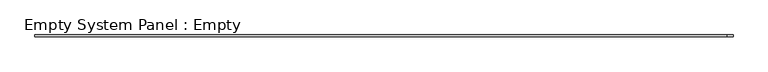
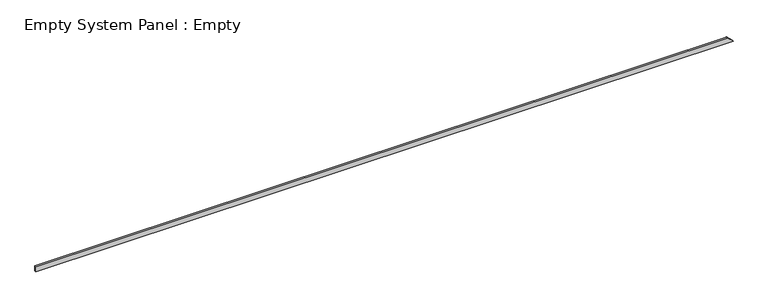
"""IFC4 building model written with IfcOpenShell, lengths in millimetres: plate geometry, Empty System Panel : Empty."""

from ifc_helpers import new_model, si_unit, frame, origin, place, context, project, spatial, polyline, outline, extrude, source, transform, mapped, element, save


def empty_system_panel_empty_44f66cc0(model_context):
    return source(origin(), model_context, "Body", "SweptSolid", [
        extrude(outline(polyline([(0.0, -20086.5187937), (0.0, 20086.5187937), (330.0, 19760.1697972), (310.0, 19760.1697972), (310.0, -20086.5187937), (0.0, -20086.5187937)])), frame((0.0, -50.0, 0.0), z_axis=(0.0, 1.0, 0.0), x_axis=(0.0, 0.0, 1.0)), (0.0, 0.0, 1.0), 100.0),
    ])


if __name__ == "__main__":
    model = new_model("IFC4")
    model_context = context("Model", 3, world=origin())
    ifc_project = project(units=[si_unit("LENGTHUNIT", "METRE", prefix="MILLI")], contexts=[model_context])
    site = spatial("IfcSite", under=ifc_project)
    building = spatial("IfcBuilding", under=site)
    placement = place(None, origin())
    empty_system_panel_empty_shape = empty_system_panel_empty_44f66cc0(model_context)
    element("IfcPlate", 1, ObjectType="Empty System Panel : Empty", at=placement, inside=building, context=model_context, shape_type="MappedRepresentation", body=[
        mapped(empty_system_panel_empty_shape, transform((0.0, 0.0, 0.0), x_axis=(1.0, 0.0, 0.0), y_axis=(0.0, 1.0, 0.0), z_axis=(0.0, 0.0, 1.0))),
    ])
    save(model, "model.ifc")
